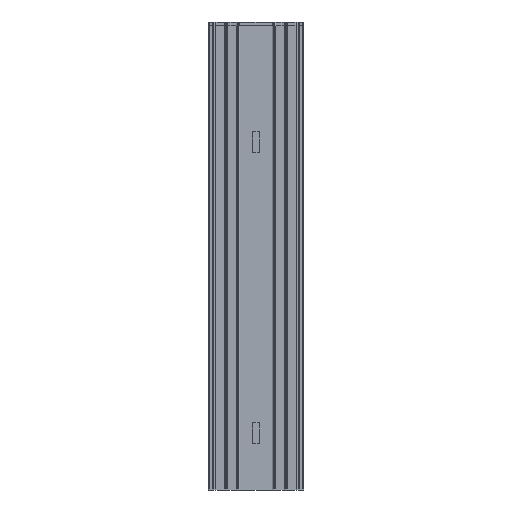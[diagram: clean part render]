
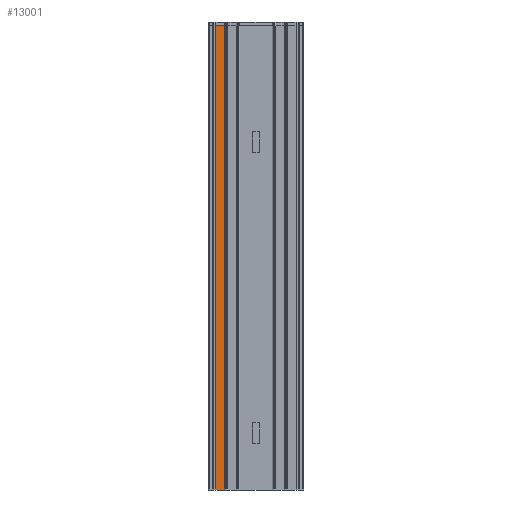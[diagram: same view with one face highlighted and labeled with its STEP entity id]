
A CAD part, front view. The second image highlights one B-rep face of the part: STEP entity #13001.
In plain terms, the highlighted planar face has unit normal (0, -1, 0).
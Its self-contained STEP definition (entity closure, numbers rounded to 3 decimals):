
#163 = VERTEX_POINT ( 'NONE', #10722 ) ;
#2357 = VECTOR ( 'NONE', #18350, 1000. ) ;
#2686 = VERTEX_POINT ( 'NONE', #4560 ) ;
#3123 = CARTESIAN_POINT ( 'NONE',  ( -144.891, -0.7, 1961.5 ) ) ;
#3191 = VECTOR ( 'NONE', #20215, 1000. ) ;
#3465 = EDGE_CURVE ( 'NONE', #163, #23069, #4965, .T. ) ;
#4560 = CARTESIAN_POINT ( 'NONE',  ( -132.675, -0.7, 1961.5 ) ) ;
#4965 = LINE ( 'NONE', #10785, #2357 ) ;
#4996 = EDGE_CURVE ( 'NONE', #2686, #163, #14870, .T. ) ;
#5102 = CARTESIAN_POINT ( 'NONE',  ( -169.324, -0.7, 1961.5 ) ) ;
#5338 = CARTESIAN_POINT ( 'NONE',  ( -157.107, -0.7, 1961.5 ) ) ;
#5878 = ORIENTED_EDGE ( 'NONE', *, *, #4996, .F. ) ;
#6204 = PLANE ( 'NONE',  #22387 ) ;
#6850 = CARTESIAN_POINT ( 'NONE',  ( -132.675, -0.7, 1961.5 ) ) ;
#7626 = EDGE_LOOP ( 'NONE', ( #23510, #5878, #24319, #11755 ) ) ;
#8839 = CARTESIAN_POINT ( 'NONE',  ( -169.324, -0.7, 1961.5 ) ) ;
#10722 = CARTESIAN_POINT ( 'NONE',  ( -132.675, -0.7, 0. ) ) ;
#10785 = CARTESIAN_POINT ( 'NONE',  ( -132.675, -0.7, 0. ) ) ;
#11523 = DIRECTION ( 'NONE',  ( 1., 0., 0. ) ) ;
#11755 = ORIENTED_EDGE ( 'NONE', *, *, #21740, .T. ) ;
#11761 = CARTESIAN_POINT ( 'NONE',  ( -169.324, -0.7, 0. ) ) ;
#13001 = ADVANCED_FACE ( 'NONE', ( #15624 ), #6204, .T. ) ;
#13760 = CARTESIAN_POINT ( 'NONE',  ( -132.675, -0.7, 1961.5 ) ) ;
#14870 = LINE ( 'NONE', #22655, #15853 ) ;
#15624 = FACE_OUTER_BOUND ( 'NONE', #7626, .T. ) ;
#15853 = VECTOR ( 'NONE', #22422, 1000. ) ;
#18350 = DIRECTION ( 'NONE',  ( -1., 0., 0. ) ) ;
#20215 = DIRECTION ( 'NONE',  ( 0., 0., -1. ) ) ;
#21029 = VERTEX_POINT ( 'NONE', #23103 ) ;
#21313 = DIRECTION ( 'NONE',  ( 0., -1., 0. ) ) ;
#21633 = EDGE_CURVE ( 'NONE', #2686, #21029, #23672, .T. ) ;
#21740 = EDGE_CURVE ( 'NONE', #21029, #23069, #22075, .T. ) ;
#22075 = LINE ( 'NONE', #5102, #3191 ) ;
#22387 = AXIS2_PLACEMENT_3D ( 'NONE', #13760, #21313, #11523 ) ;
#22422 = DIRECTION ( 'NONE',  ( 0., 0., -1. ) ) ;
#22655 = CARTESIAN_POINT ( 'NONE',  ( -132.675, -0.7, 1961.5 ) ) ;
#23069 = VERTEX_POINT ( 'NONE', #11761 ) ;
#23103 = CARTESIAN_POINT ( 'NONE',  ( -169.324, -0.7, 1961.5 ) ) ;
#23510 = ORIENTED_EDGE ( 'NONE', *, *, #3465, .F. ) ;
#23672 = B_SPLINE_CURVE_WITH_KNOTS ( 'NONE', 3,
 ( #6850, #3123, #5338, #8839 ),
 .UNSPECIFIED., .F., .F.,
 ( 4, 4 ),
 ( 0., 1. ),
 .UNSPECIFIED. ) ;
#24319 = ORIENTED_EDGE ( 'NONE', *, *, #21633, .T. ) ;
